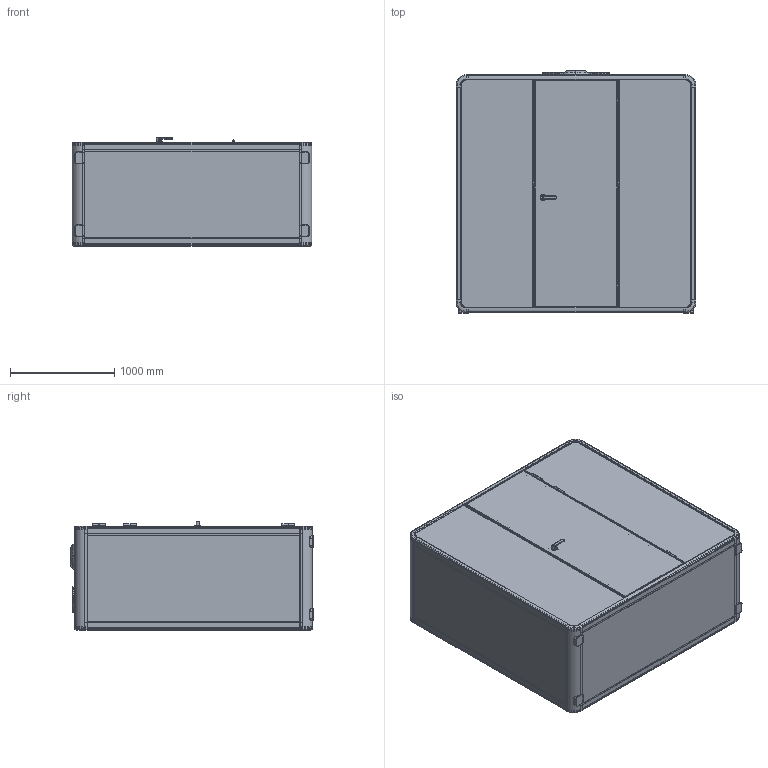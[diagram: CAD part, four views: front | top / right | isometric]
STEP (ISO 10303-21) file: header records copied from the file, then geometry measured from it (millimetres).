
FILE_DESCRIPTION (( 'STEP AP203' ), '1' );
FILE_NAME ('SL-all.STEP', '2023-08-06T02:40:13', ( '微软用户' ), ( '微软中国' ), 'SwSTEP 2.0', 'SolidWorks 2018', '' );
FILE_SCHEMA (( 'CONFIG_CONTROL_DESIGN' ));
Length unit declared in the file: millimetre
Products named in the file (32): _6-27_3_1; 103000_2_1; 202_ASM0001_ASM; 2-SST_2_4; IR sensor; 2020002_2_1; 枍倛袤啣; Fan cover; 4-200002_1; 39200_3; YYD-YX-Q_3_5; socket; 50100_ASM_2_ASM; Handle lock; 袤啣迖攫; SL伈楷_155; Knob controller; 4-200001_1; SL-Tea table; 250fan; ZSP_5_4_4; 720lamp; SL-all; ASM0002_ASM_1_ASM_11_ASM_7_ASM; 俋參忒; 20200_ASM_ASM_1_ASM; YYD-YX-H_3_4; 埴奪; SL-body; 袤啣菁攫; 20200_ASM_2_ASM_1_ASM; Vent
Assembly tree (37 placements, depth 6):
  SL-all
    SL-body
    Knob controller
    socket
    720lamp  x2
    Handle lock
      50100_ASM_2_ASM
        ASM0002_ASM_1_ASM_11_ASM_7_ASM
          ZSP_5_4_4
          2-SST_2_4
      YYD-YX-H_3_4
      4-200002_1
      39200_3
      202_ASM0001_ASM
        20200_ASM_ASM_1_ASM
          20200_ASM_2_ASM_1_ASM
            103000_2_1
            _6-27_3_1
            2020002_2_1
      俋參忒
        YYD-YX-Q_3_5
        4-200001_1
    Fan cover
    IR sensor
    Vent  x4
    SL伈楷_155  x2
    SL-Tea table
      袤啣菁攫
      埴奪
      袤啣迖攫
      枍倛袤啣
    250fan  x2
Bounding box: 2300 x 2326 x 1042.2 mm (x, y, z)
Volume: 883847674.5 mm3; surface area: 75804658 mm2
Topology: 118 solids, 118 shells, 3853 faces, 9171 edges, 5493 vertices
Faces by surface type: plane 1820, cylinder 1237, torus 352, bspline 300, cone 98, sphere 46
Entity records: 130440 total; most frequent: CARTESIAN_POINT 52180, DIRECTION 15679, ORIENTED_EDGE 15438, EDGE_CURVE 7719, AXIS2_PLACEMENT_3D 5532, VERTEX_POINT 4667, VECTOR 4615, LINE 4615
